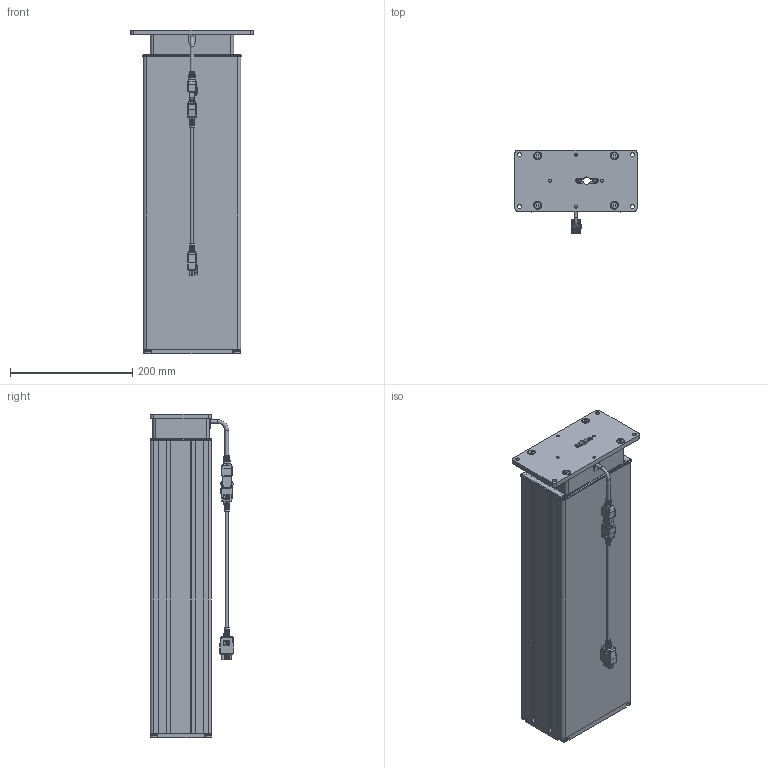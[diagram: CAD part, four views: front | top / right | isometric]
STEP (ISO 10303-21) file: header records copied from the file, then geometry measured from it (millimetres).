
FILE_DESCRIPTION(/* description */ ('Unknown'),/* implementation_level */ '2;1');
FILE_NAME(/* name */ '911.00003_00-eingefahren',/* time_stamp */ '2024-04-08T01:34:10+02:00',/* author */ ('Unknown'),/* organization */ ('Unknown'),/* preprocessor_version */ 'ST-DEVELOPER v18.104',/* originating_system */ 'Solid Edge',/* authorisation */ 'Unknown');
FILE_SCHEMA (('AUTOMOTIVE_DESIGN {1 0 10303 214 3 1 1}'));
Products named in the file (16): 911.00003; 126.00191; 119.00580; 119.00579; 126.00193; 124.00201_oa_0; 115.00200_oa_1; 110.00104_oa_2; 142.00303; 142.00241; 142.00154; 142.00039; 128.00078; Kabel Motor Sx; 119.00578; 124.00151
Assembly tree (25 placements, depth 2):
  911.00003
    126.00191
    119.00580  x2
    119.00579  x2
    126.00193
    124.00201_oa_0
    115.00200_oa_1
    110.00104_oa_2
    142.00303  x4
    142.00241  x2
    142.00154  x4
    142.00039  x2
    128.00078
    Kabel Motor Sx
    119.00578
    124.00151
Bounding box: 200 x 137.17 x 530 mm (x, y, z)
Volume: 2396554.1 mm3; surface area: 1276244.6 mm2
Topology: 22 solids, 22 shells, 1711 faces, 4482 edges, 2937 vertices
Faces by surface type: plane 1031, cylinder 466, torus 109, bspline 72, cone 27, sphere 6
Full cylindrical faces by diameter (mm): 1.5 x6, 1.82 x6, 2 x4, 2.7 x6, 4 x2, 4.917 x4, 5 x3, 5.5 x2, 6 x11, 6.2 x4, 6.5 x4, 6.6 x4, 6.647 x4, 7 x2, 10 x2, 12 x4, 21 x1
Entity records: 58188 total; most frequent: CARTESIAN_POINT 11692, ORIENTED_EDGE 7804, DIRECTION 7768, EDGE_CURVE 3902, AXIS2_PLACEMENT_3D 2648, VERTEX_POINT 2612, LINE 2472, VECTOR 2472
